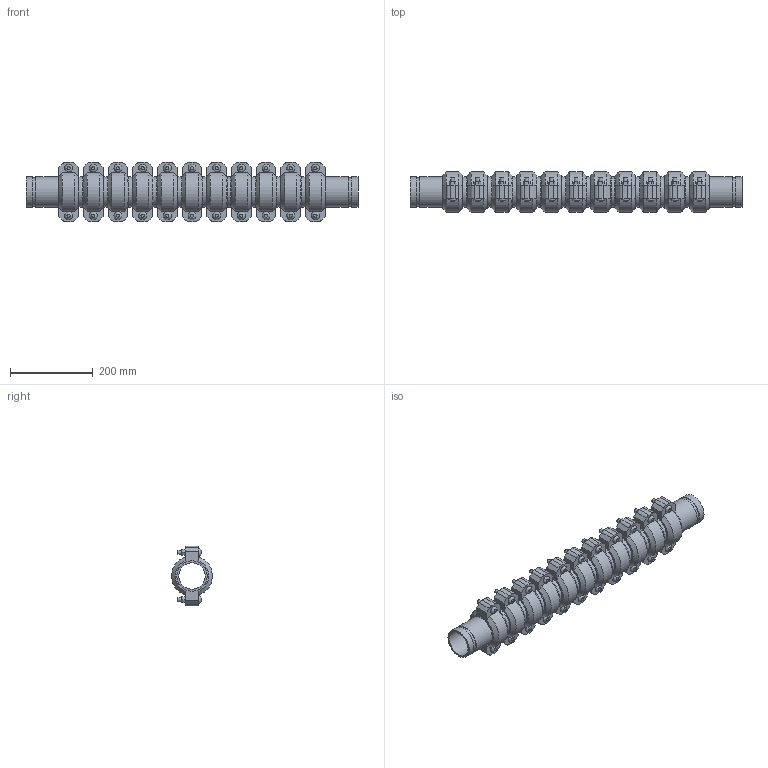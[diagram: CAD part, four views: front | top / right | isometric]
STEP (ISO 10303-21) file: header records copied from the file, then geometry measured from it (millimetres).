
FILE_DESCRIPTION(/* description */ ('VIC SS EXPANSION JOINT 11COUPLINGS NEUTRAL STYLE 155P (OGS) (POTABLE WATER) ','CAx-IF Rec.Pracs.---Representation and Presentation of Product Manufacturing Information (PMI)---4.0---2014-10-13'),/* implementation_level */ '2;1');
FILE_NAME(/* name */ 'C:\Users\kkamble\AppData\Roaming\Autodesk\ApplicationPlugins\Victaulic.Temp\A19\Victaulic_SS_Expansion Joint_Neutral_11 Couplings_Style 155P (OGS)-Potable Water_11 Coup_Neut_2.5 (65).stp',/* time_stamp */ '2021-07-16T16:28:23+06:00',/* author */ ('kkamble'),/* organization */ ('Victaulic'),/* preprocessor_version */ 'ST-DEVELOPER v17.2',/* originating_system */ 'Autodesk Inventor 2019',/* authorisation */ '');
FILE_SCHEMA (('AP242_MANAGED_MODEL_BASED_3D_ENGINEERING_MIM_LF { 1 0 10303 442 1 1 4 }'));
Length unit declared in the file: inch
Products named in the file (4): 155P-02.5; Nipple-02.5; Nipple-02.5_1; 075-02.5
Assembly tree (23 placements, depth 2):
  155P-02.5
    Nipple-02.5  x2
    Nipple-02.5_1  x10
    075-02.5  x11
Bounding box: 801.12 x 98.22 x 144.27 mm (x, y, z)
Volume: 3081016 mm3; surface area: 859816.3 mm2
Topology: 23 solids, 45 shells, 771 faces, 1823 edges, 1278 vertices
Faces by surface type: plane 468, cylinder 237, cone 44, bspline 22
Full cylindrical faces by diameter (mm): 9.525 x44, 11.43 x22, 63.475 x12, 66.675 x11, 69.088 x24, 73.025 x58
Entity records: 2897 total; most frequent: CARTESIAN_POINT 507, DIRECTION 489, ORIENTED_EDGE 386, AXIS2_PLACEMENT_3D 198, EDGE_CURVE 193, VERTEX_POINT 138, EDGE_LOOP 107, LINE 93
